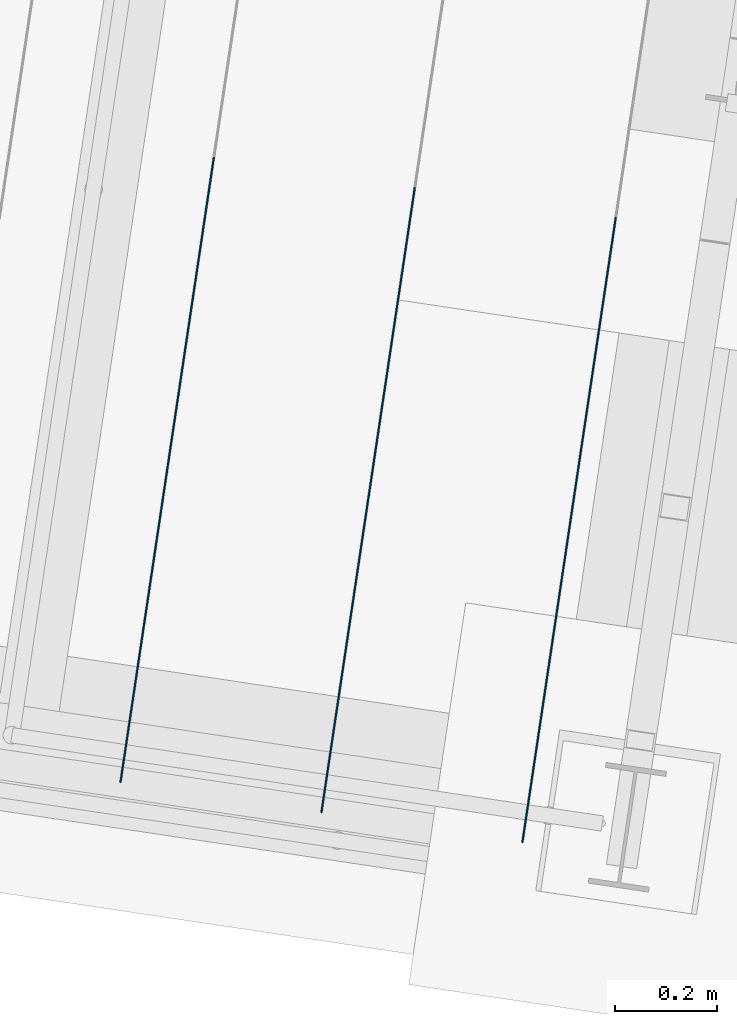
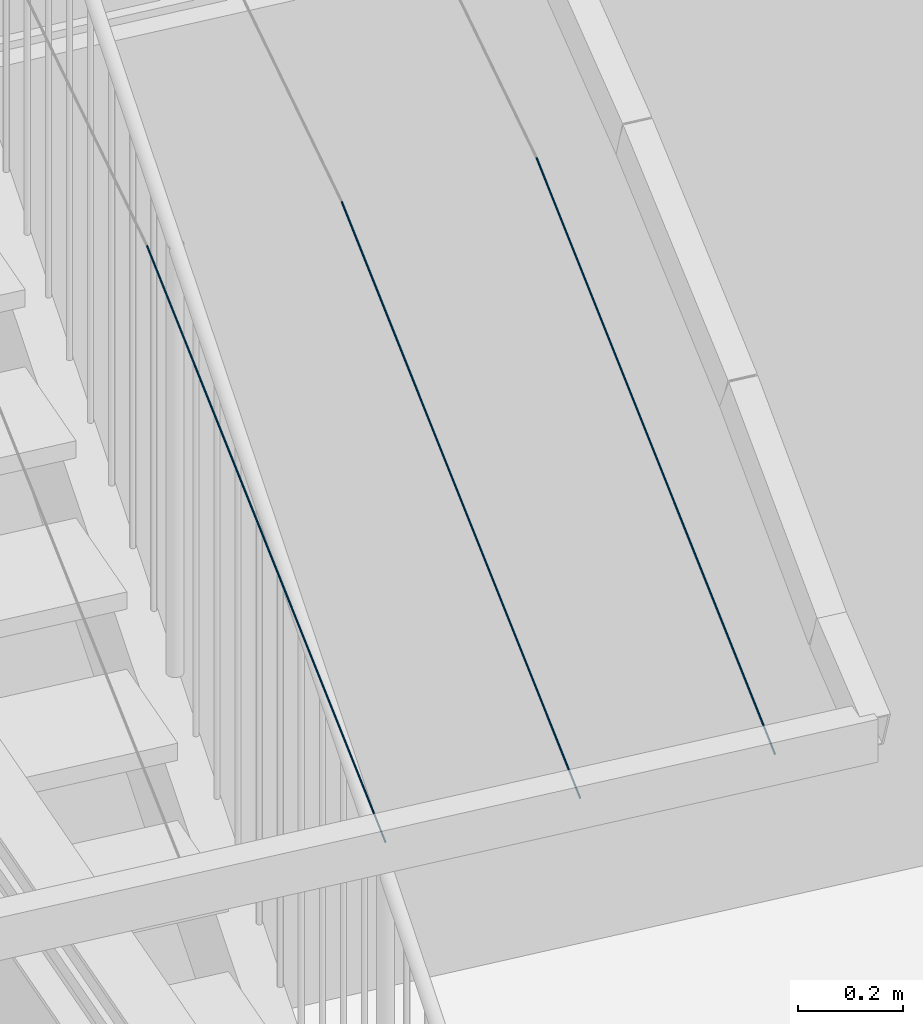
# One storey, part 19 of 143: 3 members, 1 element without a shape of its own.
"""IFC4 building model written with IfcOpenShell, lengths in metres."""

import ifcopenshell
import ifcopenshell.guid

model = None  # the IFC model being written
_history = None  # IfcOwnerHistory: only IFC2X3 demands one
_inside = {}  # id of a spatial element -> (the spatial element, [elements in it])
_under = {}  # id of a project, library or spatial element -> (it, [spatial elements below it])
_declared = {}  # id of a project -> (the project, [libraries it declares])
_typed = {}  # id of a type object -> (the type object, [elements of that type])
_made_of = {}  # id of a material, layer set ... -> (it, [elements and type objects made of it])


def new_model(schema):
    """Start an empty IFC model of exactly this schema.

    Asked for "IFC4X3", IfcOpenShell would pick the latest addendum, in which some entities
    have other attributes; the version numbers below select the first issue.
    IFC2X3 requires an IfcOwnerHistory on every rooted entity: one is made here for all.
    """
    global model, _history
    if schema == "IFC4X3":
        model = ifcopenshell.file(schema_version=(4, 3, 0, 0))
    else:
        model = ifcopenshell.file(schema=schema)
    _inside.clear()
    _under.clear()
    _declared.clear()
    _typed.clear()
    _made_of.clear()
    _history = None
    if model.schema == "IFC2X3":
        org = make("IfcOrganization", Name="unknown")
        user = make(
            "IfcPersonAndOrganization",
            ThePerson=make("IfcPerson", FamilyName="unknown"),
            TheOrganization=org,
        )
        app = make(
            "IfcApplication",
            ApplicationDeveloper=org,
            Version="unknown",
            ApplicationFullName="unknown",
            ApplicationIdentifier="unknown",
        )
        _history = make(
            "IfcOwnerHistory",
            OwningUser=user,
            OwningApplication=app,
            ChangeAction="ADDED",
            CreationDate=0,
        )
    return model


def make(cls, **values):
    """One entity of the class cls with the attributes given. An attribute that is None is left unset."""
    return model.create_entity(
        cls, **{name: value for name, value in values.items() if value is not None}
    )


def rooted(cls, **values):
    """An entity with a GlobalId (a new one), such as an element, a storey or a relation."""
    return make(cls, GlobalId=ifcopenshell.guid.new(), OwnerHistory=_history, **values)


def si_unit(unit_type, name, prefix=None):
    """IfcSIUnit, for example si_unit("LENGTHUNIT", "METRE", prefix="MILLI")."""
    return make("IfcSIUnit", UnitType=unit_type, Prefix=prefix, Name=name)


def assignment(units):
    """IfcUnitAssignment: the units of a project."""
    return None if units is None else make("IfcUnitAssignment", Units=units)


def point(xyz):
    """IfcCartesianPoint."""
    return None if xyz is None else make("IfcCartesianPoint", Coordinates=xyz)


def direction(xyz):
    """IfcDirection."""
    return None if xyz is None else make("IfcDirection", DirectionRatios=xyz)


def frame(location, z_axis=None, x_axis=None):
    """IfcAxis2Placement3D, a coordinate frame: its origin and axes. An axis left out is left unset."""
    return make(
        "IfcAxis2Placement3D",
        Location=point(location),
        Axis=direction(z_axis),
        RefDirection=direction(x_axis),
    )


def origin_with_axes():
    """The frame at (0, 0, 0) with the z axis (0, 0, 1) and the x axis (1, 0, 0) written out."""
    return frame((0.0, 0.0, 0.0), z_axis=(0.0, 0.0, 1.0), x_axis=(1.0, 0.0, 0.0))


def place(relative_to, where):
    """IfcLocalPlacement: puts the frame where relative to a parent placement (None: the world)."""
    return make(
        "IfcLocalPlacement", PlacementRelTo=relative_to, RelativePlacement=where
    )


def context(
    kind, dimensions, precision=None, world=None, true_north=None, identifier=None
):
    """IfcGeometricRepresentationContext, for example the 3D "Model" context."""
    return make(
        "IfcGeometricRepresentationContext",
        ContextIdentifier=identifier,
        ContextType=kind,
        CoordinateSpaceDimension=dimensions,
        Precision=precision,
        WorldCoordinateSystem=world,
        TrueNorth=true_north,
    )


def subcontext(parent, identifier, kind, view, scale=None):
    """IfcGeometricRepresentationSubContext, for example "Body" below "Model"."""
    return make(
        "IfcGeometricRepresentationSubContext",
        ContextIdentifier=identifier,
        ContextType=kind,
        ParentContext=parent,
        TargetScale=scale,
        TargetView=view,
    )


def project(units=None, contexts=None):
    """IfcProject with its units and contexts."""
    return rooted(
        "IfcProject",
        Name="project",
        RepresentationContexts=contexts,
        UnitsInContext=assignment(units),
    )


def spatial(cls, under=None, at=None, **own):
    """A site, building, storey or space (cls), placed at a placement, below another one or the project."""
    s = rooted(cls, ObjectPlacement=at, **own)
    if under is not None:
        _under.setdefault(under.id(), (under, []))[1].append(s)
    return s


def profile(cls, at=None, kind="AREA", **sizes):
    """A parametric profile (cls). Its sizes go by their IFC names, for example OverallWidth=200.0."""
    return make(cls, ProfileType=kind, Position=at, **sizes)


def circle(**sizes):
    """IfcCircleProfileDef."""
    return profile("IfcCircleProfileDef", **sizes)


def extrude(swept, where, along, depth):
    """IfcExtrudedAreaSolid: the profile swept, set in the frame where, extruded along a direction by depth."""
    return make(
        "IfcExtrudedAreaSolid",
        SweptArea=swept,
        Position=where,
        ExtrudedDirection=direction(along),
        Depth=depth,
    )


def shape(context_of_items, identifier, shape_type, items):
    """IfcShapeRepresentation: the items that make up one representation, for example the "Body"."""
    return make(
        "IfcShapeRepresentation",
        ContextOfItems=context_of_items,
        RepresentationIdentifier=identifier,
        RepresentationType=shape_type,
        Items=items,
    )


def material(Name=None, Category=None):
    """IfcMaterial."""
    return make("IfcMaterial", Name=Name, Category=Category)


def material_profile(
    of_material, cross_section, Name=None, Category=None, Priority=None
):
    """IfcMaterialProfile: a cross section and its material."""
    return make(
        "IfcMaterialProfile",
        Name=Name,
        Material=of_material,
        Profile=cross_section,
        Priority=Priority,
        Category=Category,
    )


def profile_set(profiles, Name=None, composite=None):
    """IfcMaterialProfileSet."""
    return make(
        "IfcMaterialProfileSet",
        Name=Name,
        MaterialProfiles=profiles,
        CompositeProfile=composite,
    )


def profile_usage(for_profile_set, cardinal=None, extent=None):
    """IfcMaterialProfileSetUsage: how a profile set lies along its element."""
    return make(
        "IfcMaterialProfileSetUsage",
        ForProfileSet=for_profile_set,
        CardinalPoint=cardinal,
        ReferenceExtent=extent,
    )


def made_of(thing, what):
    """Note that an element or type object is made of a material, layer set ...; save() writes the relation."""
    if what is not None:
        _made_of.setdefault(what.id(), (what, []))[1].append(thing)
    return thing


def type_object(cls, material=None, **own):
    """A type object (cls), such as IfcWallType, which elements share."""
    return made_of(rooted(cls, **own), material)


def element(
    cls,
    number,
    at=None,
    inside=None,
    cuts=None,
    type_object=None,
    material=None,
    context=None,
    identifier="Body",
    shape_type=None,
    held_by="IfcProductDefinitionShape",
    body=None,
    shapes=None,
    **own,
):
    """One element of the class cls, such as IfcWall. Its Tag is "e" and its number.

    at: its placement. inside: the storey or other place that contains it. cuts: it is an
    opening in that element (IfcRelVoidsElement). A single representation is given by context,
    identifier, shape_type and body (its items); several are given by shapes. held_by: the class
    of the entity that holds the representations. save() writes the other relations.
    """
    e = rooted(cls, Tag="e%d" % number, ObjectPlacement=at, **own)
    if body is not None:
        shapes = [shape(context, identifier, shape_type, body)]
    if shapes is not None:
        e.Representation = make(held_by, Representations=shapes)
    if inside is not None:
        _inside.setdefault(inside.id(), (inside, []))[1].append(e)
    if cuts is not None:
        rooted(
            "IfcRelVoidsElement", RelatingBuildingElement=cuts, RelatedOpeningElement=e
        )
    if type_object is not None:
        _typed.setdefault(type_object.id(), (type_object, []))[1].append(e)
    return made_of(e, material)


def aggregate(whole, parts):
    """IfcRelAggregates: a whole, such as a stair, and the parts it consists of."""
    return rooted("IfcRelAggregates", RelatingObject=whole, RelatedObjects=parts)


def save(model, path):
    """Write the relations noted so far, then the file.

    IfcRelAggregates (storeys below a building ...), IfcRelContainedInSpatialStructure (elements
    in a storey), IfcRelDefinesByType, IfcRelAssociatesMaterial and IfcRelDeclares: one each for
    every whole, place, type object, material and project.
    """
    for whole, parts in _under.values():
        aggregate(whole, parts)
    for where, things in _inside.values():
        rooted(
            "IfcRelContainedInSpatialStructure",
            RelatedElements=things,
            RelatingStructure=where,
        )
    for kind, things in _typed.values():
        rooted("IfcRelDefinesByType", RelatedObjects=things, RelatingType=kind)
    for what, things in _made_of.values():
        rooted("IfcRelAssociatesMaterial", RelatedObjects=things, RelatingMaterial=what)
    for by, libraries in _declared.values():
        rooted("IfcRelDeclares", RelatingContext=by, RelatedDefinitions=libraries)
    model.write(path)


model = new_model("IFC4")

# Units and contexts
model_context = context("Model", 3, precision=1e-05, world=origin_with_axes(), true_north=direction((0.0, 1.0)))
body_context = subcontext(model_context, "Body", "Model", "MODEL_VIEW")
ifc_project = project(units=[si_unit("VOLUMEUNIT", "CUBIC_METRE"), si_unit("LENGTHUNIT", "METRE"), si_unit("AREAUNIT", "SQUARE_METRE")], contexts=[model_context])

# Site, building, storey
site_placement = place(None, origin_with_axes())
site = spatial("IfcSite", under=ifc_project, at=site_placement, Name="Lares · Rua das Mercês · artigo 4771")
building_placement = place(site_placement, frame((15.0, 9.7, 15.8), z_axis=(0.0, 0.0, 1.0), x_axis=(0.989015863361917, -0.147809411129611, 0.0)))
building = spatial("IfcBuilding", under=site, at=building_placement, Name="Casa Sobreposta")
storey_placement = place(building_placement, origin_with_axes())
storey = spatial("IfcBuildingStorey", under=building, at=storey_placement, Name="00 · Habitação e estacionamento", Elevation=15.8)

# Assembly, members
assembly_placement = place(storey_placement, origin_with_axes())
assembly = element("IfcElementAssembly", 1, at=assembly_placement, inside=storey, Name="Pérgola · prolongamento da estufa 6 m", ObjectType="PERGOLA_GREENHOUSE_EXTENSION", PredefinedType="USERDEFINED")
ifc_material = material(Name="Aço galvanizado / Stahl verzinkt", Category="steel")
ifc_material_profile = material_profile(ifc_material, circle(Radius=0.002))
ifc_profile_set = profile_set([ifc_material_profile], Name="D0.004")
ifc_profile_usage_1 = profile_usage(ifc_profile_set)
member_type = type_object("IfcMemberType", Name="D0.004 / galvanized", PredefinedType="NOTDEFINED", material=ifc_profile_set)
member_1_placement = place(assembly_placement, frame((-0.999999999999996, -1.5, 6.23430000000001), z_axis=(0.0, 0.905876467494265, 0.423541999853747), x_axis=(1.0, 0.0, 0.0)))
member_1 = element("IfcMember", 2, at=member_1_placement, type_object=member_type, material=ifc_profile_usage_1, Name="Pérgola · fio para trepadeiras", context=body_context, shape_type="SweptSolid", body=[
    extrude(circle(Radius=0.002), origin_with_axes(), (0.0, 0.0, 1.0), 1.37271642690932),
])
ifc_profile_usage_2 = profile_usage(ifc_profile_set)
member_2_placement = place(assembly_placement, frame((-0.599999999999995, -1.5, 6.23430000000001), z_axis=(0.0, 0.905876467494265, 0.423541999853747), x_axis=(1.0, 0.0, 0.0)))
member_2 = element("IfcMember", 3, at=member_2_placement, type_object=member_type, material=ifc_profile_usage_2, Name="Pérgola · fio para trepadeiras", context=body_context, shape_type="SweptSolid", body=[
    extrude(circle(Radius=0.002), origin_with_axes(), (0.0, 0.0, 1.0), 1.37271642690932),
])
ifc_profile_usage_3 = profile_usage(ifc_profile_set)
member_3_placement = place(assembly_placement, frame((-0.199999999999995, -1.5, 6.23430000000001), z_axis=(0.0, 0.905876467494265, 0.423541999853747), x_axis=(1.0, 0.0, 0.0)))
member_3 = element("IfcMember", 4, at=member_3_placement, type_object=member_type, material=ifc_profile_usage_3, Name="Pérgola · fio para trepadeiras", context=body_context, shape_type="SweptSolid", body=[
    extrude(circle(Radius=0.002), origin_with_axes(), (0.0, 0.0, 1.0), 1.37271642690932),
])
aggregate(assembly, [member_1, member_2, member_3])

save(model, "model.ifc")
